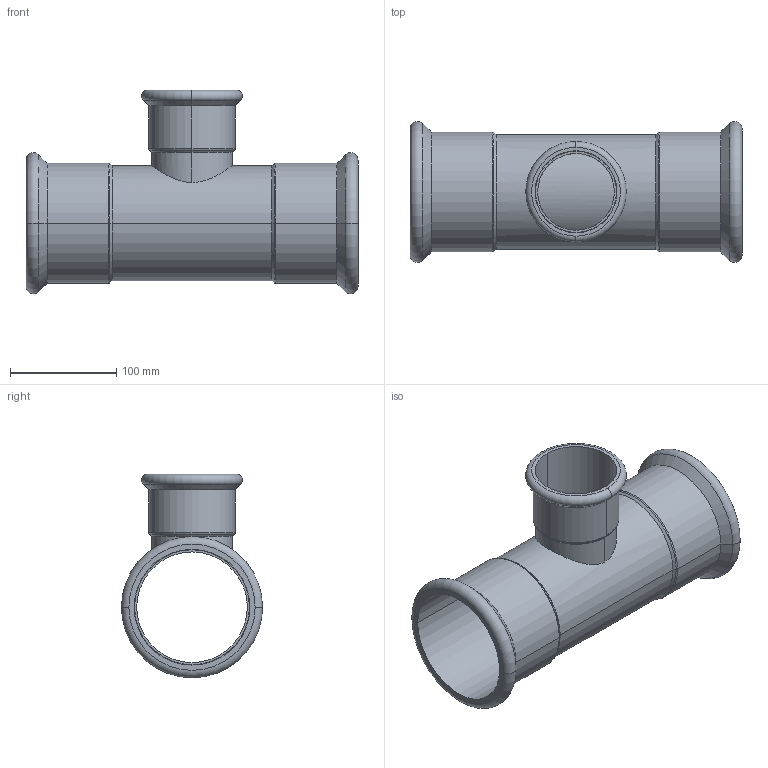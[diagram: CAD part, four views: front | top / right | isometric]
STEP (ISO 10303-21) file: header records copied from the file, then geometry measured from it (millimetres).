
FILE_DESCRIPTION(('CoCreate Modeling STEP Export'),'2;1');
FILE_NAME('C1415 108x76.1x108.stp','2014-11-12T11:00:51',(''),(''),'CoCreate Modeling STEP processor for AP214 (Solid Model)','CoCreate Modeling 17.00A 17-Jun-2010 (C) Parametric Technology GmbH','');
FILE_SCHEMA(('AUTOMOTIVE_DESIGN { 1 0 10303 214 1 1 1 1 }'));
Length unit declared in the file: millimetre
Products named in the file (2): C1415_108x76x108
Assembly tree (1 placements, depth 2):
  C1415_108x76x108
    C1415_108x76x108
Bounding box: 312 x 132.58 x 191.29 mm (x, y, z)
Volume: 377203.8 mm3; surface area: 267868.1 mm2
Topology: 1 solids, 1 shells, 60 faces, 124 edges, 74 vertices
Faces by surface type: cylinder 27, torus 12, cone 12, plane 9
Entity records: 2864 total; most frequent: CARTESIAN_POINT 1723, ORIENTED_EDGE 248, DIRECTION 202, EDGE_CURVE 124, AXIS2_PLACEMENT_3D 82, VERTEX_POINT 74, EDGE_LOOP 70, FACE_OUTER_BOUND 60
